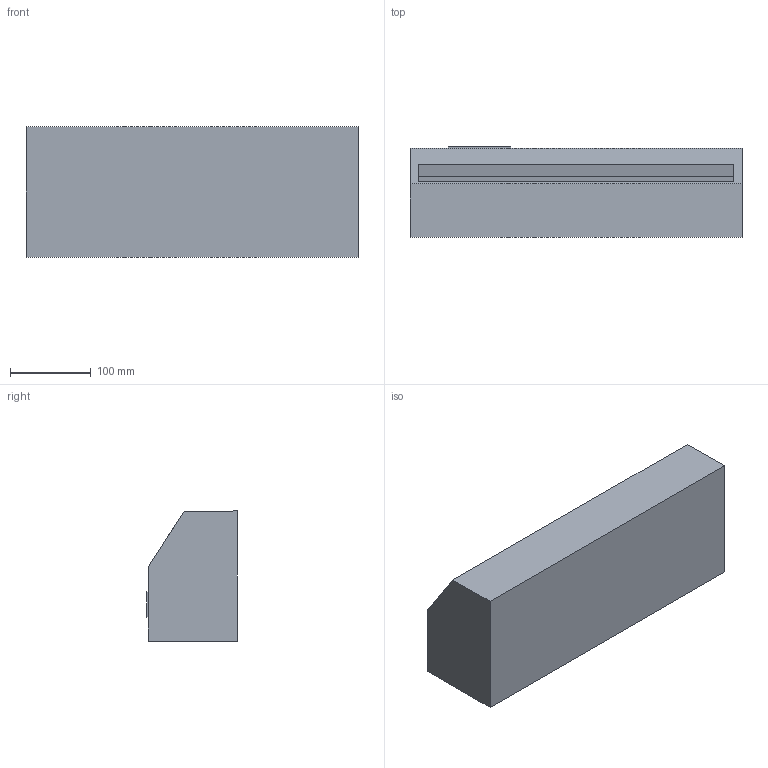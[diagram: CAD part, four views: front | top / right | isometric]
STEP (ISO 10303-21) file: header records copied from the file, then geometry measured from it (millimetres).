
FILE_DESCRIPTION(/* description */ (''),/* implementation_level */ '2;1');
FILE_NAME(/* name */ 'D:/dgooch/Documents/CADENG/PRO/Ovation Cyc 1 FC/0/3D/Ovation Cyc v4.step',/* time_stamp */ '2019-08-23T11:23:10-04:00',/* author */ (''),/* organization */ (''),/* preprocessor_version */ 'ST-DEVELOPER v18',/* originating_system */ 'Autodesk Translation Framework v8.6.0.1094',/* authorisation */ '');
FILE_SCHEMA (('AUTOMOTIVE_DESIGN { 1 0 10303 214 3 1 1 }'));
Length unit declared in the file: millimetre
Products named in the file (2): Ovation Cyc; Main
Assembly tree (1 placements, depth 2):
  Ovation Cyc
    Main
Bounding box: 410.07 x 112.19 x 160.71 mm (x, y, z)
Volume: 6486786.6 mm3; surface area: 247804.2 mm2
Topology: 1 solids, 1 shells, 17 faces, 39 edges, 26 vertices
Faces by surface type: plane 17
Entity records: 526 total; most frequent: CARTESIAN_POINT 85, DIRECTION 79, ORIENTED_EDGE 78, LINE 39, VECTOR 39, EDGE_CURVE 39, VERTEX_POINT 26, AXIS2_PLACEMENT_3D 20
